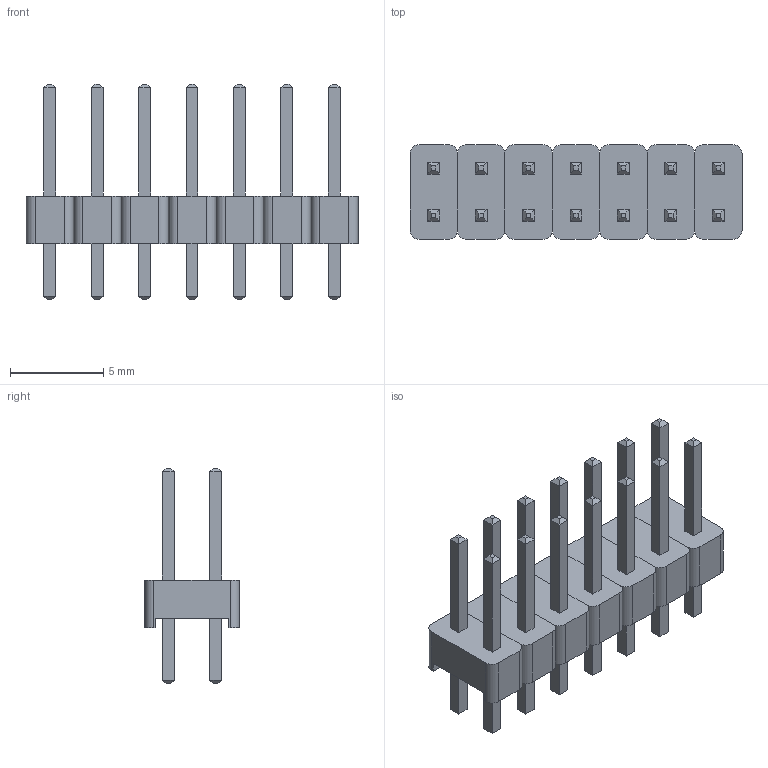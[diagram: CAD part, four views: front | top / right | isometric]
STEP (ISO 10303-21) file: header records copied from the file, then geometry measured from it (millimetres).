
FILE_DESCRIPTION(('FreeCAD Model'),'2;1');
FILE_NAME('Open CASCADE Shape Model','2022-04-06T15:56:01',( 'Engenharia Metaltex'),('Metaltex'), 'Open CASCADE STEP processor 7.5','FreeCAD','Unknown');
FILE_SCHEMA(('AUTOMOTIVE_DESIGN { 1 0 10303 214 1 1 1 1 }'));
Length unit declared in the file: millimetre
Products named in the file (29): BPDC; 1; Base; Pino1; Pino2; 2; Base001; Pino003; Pino004; 3; Base002; Pino006; Pino005; 4; Base003; Pino008; Pino007; 5; Base004; Pino009; Pino010; 6; Base005; Pino012; Pino011; 7; Base006; Pino013; Pino014
Assembly tree (28 placements, depth 3):
  BPDC
    1
      Base
      Pino1
      Pino2
    2
      Base001
      Pino003
      Pino004
    3
      Base002
      Pino006
      Pino005
    4
      Base003
      Pino008
      Pino007
    5
      Base004
      Pino009
      Pino010
    6
      Base005
      Pino012
      Pino011
    7
      Base006
      Pino013
      Pino014
Bounding box: 17.78 x 5.08 x 11.54 mm (x, y, z)
Volume: 244.5 mm3; surface area: 900.4 mm2
Topology: 21 solids, 21 shells, 350 faces, 812 edges, 504 vertices
Faces by surface type: plane 322, cylinder 28
Entity records: 21019 total; most frequent: CARTESIAN_POINT 3487, DIRECTION 3222, LINE 2324, VECTOR 2324, ORIENTED_EDGE 1624, PCURVE 1624, DEFINITIONAL_REPRESENTATION 1624, EDGE_CURVE 812
